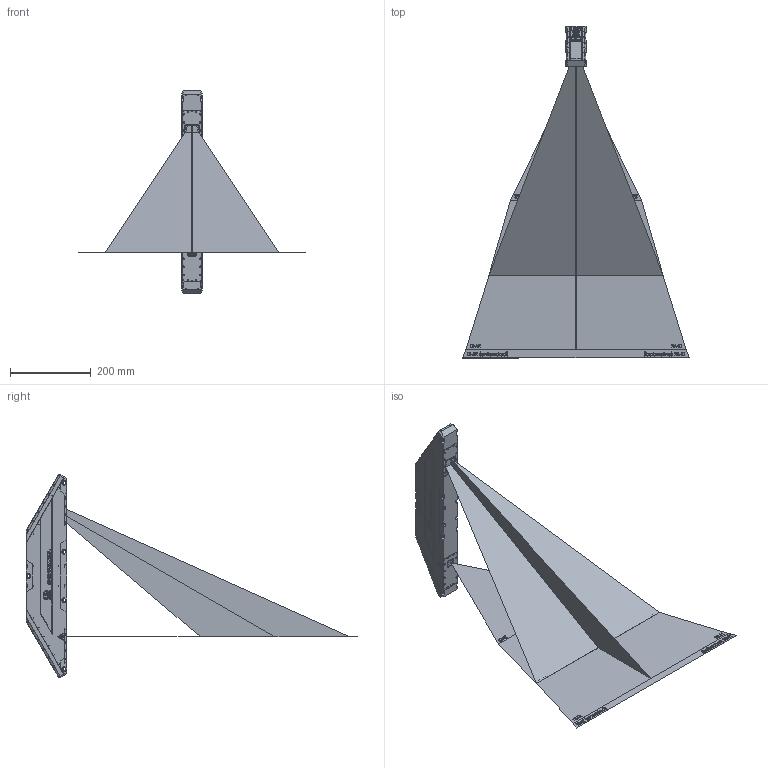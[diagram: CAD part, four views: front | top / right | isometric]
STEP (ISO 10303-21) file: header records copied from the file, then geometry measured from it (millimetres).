
FILE_DESCRIPTION (( 'STEP AP214' ), '1' );
FILE_NAME ('LLT30xx-430.STEP', '2023-05-22T09:10:17', ( '' ), ( '' ), 'SwSTEP 2.0', 'SolidWorks 2020', '' );
FILE_SCHEMA (( 'AUTOMOTIVE_DESIGN' ));
Length unit declared in the file: millimetre
Products named in the file (8): Sensor; EMR MB 430; Optik MB400; LLT30xx-430; SMR MB 430; MMR MB 430; Measurementrange MB430; EMR extended MB 430
Assembly tree (7 placements, depth 3):
  LLT30xx-430
    Sensor
    Measurementrange MB430
      SMR MB 430
      MMR MB 430
      EMR MB 430
      EMR extended MB 430
      Optik MB400
Bounding box: 560 x 820 x 499.8 mm (x, y, z)
Volume: 1833651.5 mm3; surface area: 1061397.4 mm2
Topology: 6 solids, 117 shells, 8146 faces, 22439 edges, 14828 vertices
Faces by surface type: plane 6317, bspline 843, cylinder 682, cone 176, torus 128
Full cylindrical faces by diameter (mm): 0.7 x12, 1 x8, 1.5 x8, 1.55 x1, 1.6 x31, 2 x62, 2.2 x32, 2.4 x27, 2.8 x3, 3.2 x3, 3.8 x56, 4.2 x64, 4.4 x4, 6.8 x5, 9.4 x1, 9.5 x2, 9.6 x4, 10.7 x2, 10.75 x2, 11 x12, 13.5 x2, 18 x1
Entity records: 370490 total; most frequent: CARTESIAN_POINT 88996, ORIENTED_EDGE 43020, DIRECTION 36095, EDGE_CURVE 21510, LINE 17767, VECTOR 17767, VERTEX_POINT 14506, EDGE_LOOP 9214
